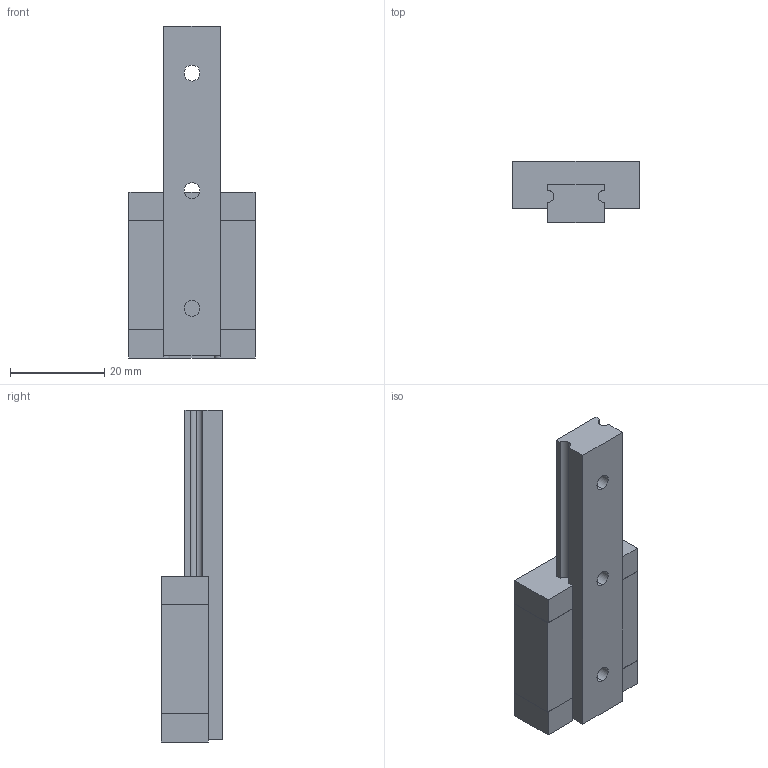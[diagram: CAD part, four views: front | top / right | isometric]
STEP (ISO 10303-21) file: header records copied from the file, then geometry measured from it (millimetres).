
FILE_DESCRIPTION (( 'STEP AP203' ), '1' );
FILE_NAME ('MCM 12.STEP', '2018-06-19T01:09:00', ( '' ), ( '' ), 'SwSTEP 2.0', 'SolidWorks 2016', '' );
FILE_SCHEMA (( 'CONFIG_CONTROL_DESIGN' ));
Length unit declared in the file: millimetre
Products named in the file (3): MCM TABLE 12 - 70; MCM BASE 12 - 70; MCM 12
Assembly tree (2 placements, depth 2):
  MCM 12
    MCM TABLE 12 - 70
    MCM BASE 12 - 70
Bounding box: 27 x 13 x 70.59 mm (x, y, z)
Volume: 13323.1 mm3; surface area: 8002 mm2
Topology: 4 solids, 4 shells, 87 faces, 220 edges, 140 vertices
Faces by surface type: plane 47, cylinder 32, cone 8
Entity records: 2871 total; most frequent: DIRECTION 460, CARTESIAN_POINT 444, ORIENTED_EDGE 424, EDGE_CURVE 212, AXIS2_PLACEMENT_3D 156, LINE 148, VECTOR 148, VERTEX_POINT 140
